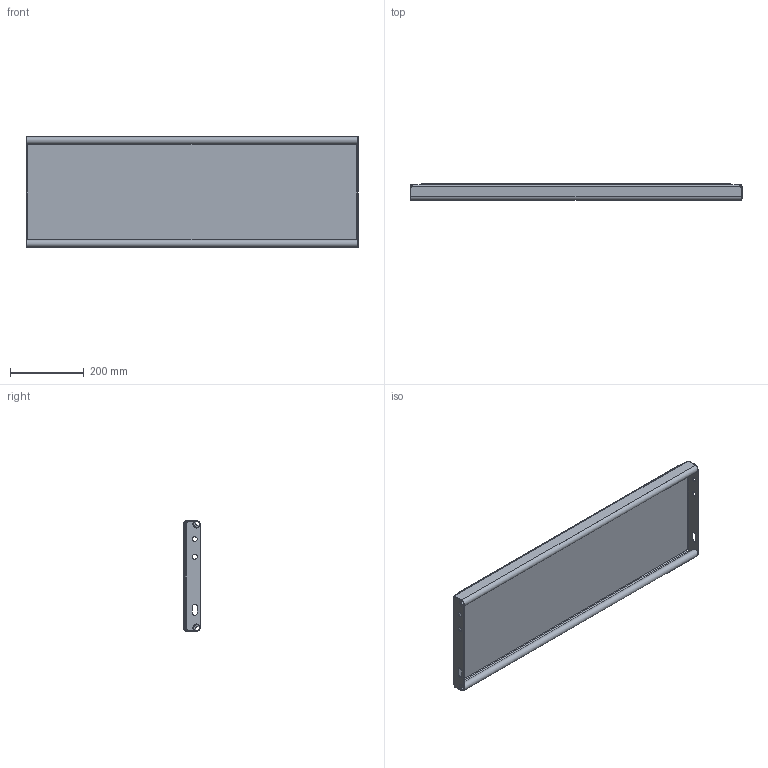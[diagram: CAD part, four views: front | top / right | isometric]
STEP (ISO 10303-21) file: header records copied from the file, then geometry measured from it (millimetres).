
FILE_DESCRIPTION (( 'STEP AP214' ), '1' );
FILE_NAME ('OPTIMO-Tread-Achil-O2-900x300x45x2-st240-F100530100_plain.STEP', '2021-03-18T12:08:05', ( '' ), ( '' ), 'SwSTEP 2.0', 'SolidWorks 2021', '' );
FILE_SCHEMA (( 'AUTOMOTIVE_DESIGN' ));
Length unit declared in the file: millimetre
Products named in the file (1): OPTIMO-Tread-Achil-O2-900x300x45x2-st240-F100530100_plain
Bounding box: 900 x 45 x 300 mm (x, y, z)
Volume: 1595532.4 mm3; surface area: 873102 mm2
Topology: 1 solids, 1 shells, 252 faces, 652 edges, 420 vertices
Faces by surface type: plane 173, cylinder 40, bspline 39
Entity records: 10072 total; most frequent: CARTESIAN_POINT 4116, ORIENTED_EDGE 1304, DIRECTION 1050, EDGE_CURVE 652, LINE 494, VECTOR 494, VERTEX_POINT 420, EDGE_LOOP 282
